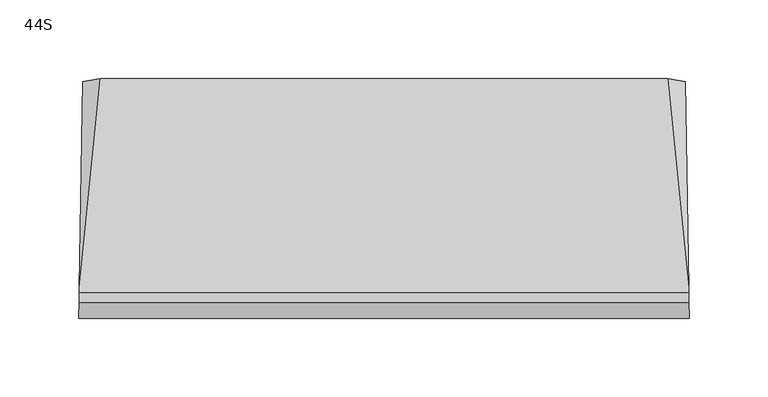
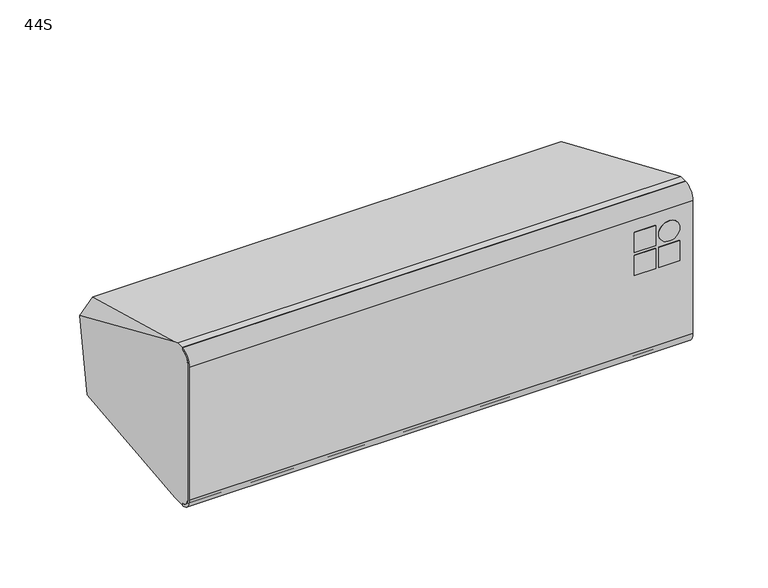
"""IFC4 building model written with IfcOpenShell, lengths in millimetres: proxy geometry, d&b xS-Series 44S Point Source : 44S."""

from ifc_helpers import new_model, si_unit, point, frame, frame_2d, origin, place, context, project, spatial, polyline, circle_curve, ellipse_curve, trimmed, segment, composite_curve, outline, extrude, source, transform, mapped, element, save
from ifc_brep_helpers import plane_surface, cylinder_surface, revolved_surface, advanced_brep


def proxy_44s_32ae6d55(model_context):
    return source(origin(), model_context, "Body", "SolidModel", [
        advanced_brep(
        [(-193.2924342, -66.0, -64.0), (-193.2924342, -66.0, -62.0435242), (-193.4294708, -73.9650952, -54.078429), (-193.4294708, -73.9650952, 54.0), (-193.2918337, -65.9650952, 62.0), (-193.2918337, -65.9650952, 64.0), (-193.1898069, -60.0349048, 64.0), (-193.132384, -56.6972655, 62.7855103), (-190.8800877, 74.2148737, 4.3760941), (-191.0574064, 63.9084293, -54.074657), (-193.132384, -56.6972655, -64.0), (193.2924342, -66.0, -62.0435242), (193.2924342, -66.0, -64.0), (193.132384, -56.6972655, -64.0), (191.0574064, 63.9084293, -54.074657), (190.8800877, 74.2148737, 4.3760941), (193.132384, -56.6972655, 62.7855103), (193.1898069, -60.0349048, 64.0), (193.2918337, -65.9650952, 64.0), (193.2918337, -65.9650952, 62.0), (193.4294708, -73.9650952, 54.0), (193.4294708, -73.9650952, -54.078429), (-181.3061997, 62.1583235, -64.0), (181.3061997, 62.1583235, -64.0), (179.9289467, 76.0, 14.5000481), (-179.9289467, 76.0, 14.5000481), (-138.5, 71.3365881, -11.9474751), (-138.5, 66.8217355, -37.5524767), (-128.5, 65.0852537, -47.4005542), (-51.5, 65.0852537, -47.4005542), (-41.5, 66.8217355, -37.5524767), (-41.5, 71.3365881, -11.9474751), (-51.5, 73.0730698, -2.0993976), (-128.5, 73.0730698, -2.0993976), (-138.5, 66.4125493, -11.0792343), (-128.5, 68.1490311, -1.2311567), (-51.5, 68.1490311, -1.2311567), (-41.5, 66.4125493, -11.0792343), (-41.5, 61.8976967, -36.6842358), (-51.5, 60.1612149, -46.5323134), (-128.5, 60.1612149, -46.5323134), (-138.5, 61.8976967, -36.6842358)],
        [
            (0, 1),
            (1, 2, ellipse_curve(frame((-193.2924342, -66.0, -54.078429), z_axis=(-0.999852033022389, 0.017202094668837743, 0.0), x_axis=(-0.01720209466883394, -0.999852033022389, 0.0)), 7.9662739, 7.9650952)),
            (2, 3),
            (3, 4, ellipse_curve(frame((-193.2918337, -65.9650952, 54.0), z_axis=(-0.999852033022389, 0.017202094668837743, 0.0), x_axis=(-0.01720209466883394, -0.999852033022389, 0.0)), 8.0011839, 8.0)),
            (4, 5),
            (5, 6),
            (6, 7),
            (7, 8),
            (8, 9),
            (9, 10),
            (10, 0),
            (11, 12),
            (12, 13),
            (13, 14),
            (14, 15),
            (15, 16),
            (16, 17),
            (17, 18),
            (18, 19),
            (19, 20, ellipse_curve(frame((193.2918337, -65.9650952, 54.0), z_axis=(0.9998520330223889, 0.01720209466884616, 0.0), x_axis=(-0.017202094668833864, 0.999852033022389, 0.0)), 8.0011839, 8.0)),
            (20, 21),
            (21, 11, ellipse_curve(frame((193.2924342, -66.0, -54.078429), z_axis=(0.9998520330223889, 0.01720209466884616, 0.0), x_axis=(-0.017202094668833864, 0.999852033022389, 0.0)), 7.9662739, 7.9650952)),
            (0, 12),
            (11, 1),
            (21, 2),
            (20, 3),
            (19, 4),
            (18, 5),
            (17, 6),
            (10, 22),
            (22, 23),
            (23, 13),
            (16, 24),
            (24, 25),
            (25, 7),
            (9, 22),
            (23, 14),
            (15, 24),
            (25, 8),
            (26, 27),
            (27, 28, circle_curve(frame((-128.5, 66.8217355, -37.5524767), z_axis=(0.0, -0.9848077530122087, 0.17364817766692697), x_axis=(0.0, 0.17364817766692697, 0.9848077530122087)), 10.0)),
            (28, 29),
            (29, 30, circle_curve(frame((-51.5, 66.8217355, -37.5524767), z_axis=(0.0, -0.9848077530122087, 0.17364817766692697), x_axis=(0.0, 0.17364817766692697, 0.9848077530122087)), 10.0)),
            (30, 31),
            (31, 32, circle_curve(frame((-51.5, 71.3365881, -11.9474751), z_axis=(0.0, -0.9848077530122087, 0.17364817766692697), x_axis=(0.0, 0.17364817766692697, 0.9848077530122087)), 10.0)),
            (32, 33),
            (33, 26, circle_curve(frame((-128.5, 71.3365881, -11.9474751), z_axis=(0.0, -0.9848077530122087, 0.17364817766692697), x_axis=(0.0, 0.17364817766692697, 0.9848077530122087)), 10.0)),
            (34, 35, circle_curve(frame((-128.5, 66.4125493, -11.0792343), z_axis=(0.0, 0.9848077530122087, -0.17364817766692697), x_axis=(0.0, 0.17364817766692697, 0.9848077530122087)), 10.0)),
            (35, 36),
            (36, 37, circle_curve(frame((-51.5, 66.4125493, -11.0792343), z_axis=(0.0, 0.9848077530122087, -0.17364817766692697), x_axis=(0.0, 0.17364817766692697, 0.9848077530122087)), 10.0)),
            (37, 38),
            (38, 39, circle_curve(frame((-51.5, 61.8976967, -36.6842358), z_axis=(0.0, 0.9848077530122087, -0.17364817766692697), x_axis=(0.0, 0.17364817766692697, 0.9848077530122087)), 10.0)),
            (39, 40),
            (40, 41, circle_curve(frame((-128.5, 61.8976967, -36.6842358), z_axis=(0.0, 0.9848077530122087, -0.17364817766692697), x_axis=(0.0, 0.17364817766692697, 0.9848077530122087)), 10.0)),
            (41, 34),
            (41, 27),
            (26, 34),
            (40, 28),
            (39, 29),
            (38, 30),
            (37, 31),
            (36, 32),
            (35, 33),
        ],
        [
            plane_surface(frame((-193.8309972, -97.3033587, 100.0), z_axis=(-0.999852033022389, 0.017202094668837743, 0.0), x_axis=(0.0, 0.0, -1.0))),
            plane_surface(frame((190.7119283, 83.9889493, 100.0), z_axis=(0.9998520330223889, 0.01720209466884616, 0.0), x_axis=(0.0, 0.0, -1.0))),
            plane_surface(frame((-207.1452552, -66.0, -64.0), z_axis=(0.0, -1.0, 0.0), x_axis=(1.0, 0.0, 0.0))),
            cylinder_surface(frame((207.1452552, -66.0, -54.078429), z_axis=(-1.0, 0.0, 0.0), x_axis=(0.0, 0.0, -1.0)), 7.9650952),
            plane_surface(frame((-207.1452552, -73.9650952, -54.078429), z_axis=(0.0, -1.0, 0.0), x_axis=(1.0, 0.0, 0.0))),
            cylinder_surface(frame((207.1452552, -65.9650952, 54.0), z_axis=(-1.0, 0.0, 0.0), x_axis=(0.0, 0.0, -1.0)), 8.0),
            plane_surface(frame((-207.1452552, -65.9650952, 62.0), z_axis=(0.0, -1.0, 0.0), x_axis=(1.0, 0.0, 0.0))),
            plane_surface(frame((-207.1452552, -65.9650952, 64.0), z_axis=(0.0, 0.0, 1.0), x_axis=(1.0, 0.0, 0.0))),
            plane_surface(frame((-207.1452552, -60.0349048, -64.0), z_axis=(0.0, 0.0, -1.0), x_axis=(1.0, 0.0, 0.0))),
            plane_surface(frame((0.0, 76.0, 14.5000481), z_axis=(0.0, 0.34194264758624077, 0.939720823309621), x_axis=(-1.0, 0.0, 0.0))),
            plane_surface(frame((-186.6967137, 76.0, -57.232233), z_axis=(-0.7053631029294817, 0.07018394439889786, -0.7053631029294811), x_axis=(0.7071067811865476, 0.0, -0.7071067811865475))),
            plane_surface(frame((186.6967137, 76.0, -57.232233), z_axis=(0.7053631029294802, 0.07018394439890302, -0.7053631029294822), x_axis=(0.7071067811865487, 0.0, 0.7071067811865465))),
            plane_surface(frame((186.6967137, 76.0, 7.7322812), z_axis=(0.6719558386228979, 0.31136907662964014, 0.6719558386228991), x_axis=(-0.7071067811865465, 0.0, 0.7071067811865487))),
            plane_surface(frame((-186.6967137, 76.0, 7.7322812), z_axis=(-0.6719558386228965, 0.3113690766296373, 0.6719558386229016), x_axis=(-0.7071067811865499, 0.0, -0.7071067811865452))),
            plane_surface(frame((-250.0, 59.1151772, -81.2585403), z_axis=(0.0, 0.9848077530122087, -0.17364817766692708), x_axis=(1.0, 0.0, 0.0))),
            plane_surface(frame((-138.5, 57.2342848, -63.1317591), z_axis=(0.0, 0.9848077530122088, -0.173648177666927), x_axis=(0.0, -0.173648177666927, -0.9848077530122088))),
            plane_surface(frame((-138.5, 66.4125493, -11.0792343), z_axis=(1.0, 0.0, 0.0), x_axis=(0.0, 0.9848077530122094, -0.1736481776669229))),
            revolved_surface(polyline([(-128.5, 63.63417846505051, -26.836158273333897), (-128.5, 68.55821727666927, -27.704399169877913)]), (-128.5, 66.8217355, -37.5524767), (0.0, -0.9848077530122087, 0.17364817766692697)),
            plane_surface(frame((-128.5, 60.1612149, -46.5323134), z_axis=(0.0, 0.1736481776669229, 0.9848077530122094), x_axis=(0.0, 0.9848077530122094, -0.1736481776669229))),
            revolved_surface(polyline([(-51.5, 63.63417846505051, -26.836158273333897), (-51.5, 68.55821727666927, -27.704399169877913)]), (-51.5, 66.8217355, -37.5524767), (0.0, -0.9848077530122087, 0.17364817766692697)),
            plane_surface(frame((-41.5, 61.8976967, -36.6842358), z_axis=(-1.0, 0.0, 0.0), x_axis=(0.0, 0.9848077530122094, -0.1736481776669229))),
            revolved_surface(polyline([(-51.5, 68.1490310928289, -1.2311566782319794), (-51.5, 73.07306987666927, -2.0993975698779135)]), (-51.5, 71.3365881, -11.9474751), (0.0, -0.9848077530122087, 0.17364817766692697)),
            plane_surface(frame((-51.5, 68.1490311, -1.2311567), z_axis=(0.0, -0.1736481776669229, -0.9848077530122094), x_axis=(0.0, 0.9848077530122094, -0.1736481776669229))),
            revolved_surface(polyline([(-128.5, 68.1490310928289, -1.2311566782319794), (-128.5, 73.07306987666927, -2.0993975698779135)]), (-128.5, 71.3365881, -11.9474751), (0.0, -0.9848077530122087, 0.17364817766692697)),
        ],
        [
            (0, [[1, 2, 3, 4, 5, 6, 7, 8, 9, 10, 11]]),
            (1, [[12, 13, 14, 15, 16, 17, 18, 19, 20, 21, 22]]),
            (2, [[23, -12, 24, -1]]),
            (3, [[-24, -22, 25, -2]]),
            (4, [[-25, -21, 26, -3]]),
            (5, [[-26, -20, 27, -4]]),
            (6, [[-27, -19, 28, -5]]),
            (7, [[-28, -18, 29, -6]]),
            (8, [[-23, -11, 30, 31, 32, -13]]),
            (9, [[-29, -17, 33, 34, 35, -7]]),
            (10, [[-30, -10, 36]]),
            (11, [[-32, 37, -14]]),
            (12, [[-33, -16, 38]]),
            (13, [[-35, 39, -8]]),
            (14, [[-31, -36, -9, -39, -34, -38, -15, -37], [40, 41, 42, 43, 44, 45, 46, 47]]),
            (15, [[48, 49, 50, 51, 52, 53, 54, 55]]),
            (16, [[-55, 56, -40, 57]]),
            (17, [[-54, 58, -41, -56]]),
            (18, [[-53, 59, -42, -58]]),
            (19, [[-52, 60, -43, -59]]),
            (20, [[-51, 61, -44, -60]]),
            (21, [[-50, 62, -45, -61]]),
            (22, [[-49, 63, -46, -62]]),
            (23, [[-48, -57, -47, -63]]),
        ],
    ),
        extrude(outline(polyline([(164.7978139, -76.0), (148.4644806, -76.0), (148.4644806, -71.0), (164.7978139, -71.0), (164.7978139, -76.0)])), frame((0.0, 0.0, 27.6666667), z_axis=(0.0, 0.0, 1.0), x_axis=(1.0, 0.0, 0.0)), (0.0, 0.0, 1.0), 16.3333333),
        extrude(outline(polyline([(164.7978139, -76.0), (148.4644806, -76.0), (148.4644806, -71.0), (164.7978139, -71.0), (164.7978139, -76.0)])), frame((0.0, 0.0, 9.0), z_axis=(0.0, 0.0, 1.0), x_axis=(1.0, 0.0, 0.0)), (0.0, 0.0, 1.0), 16.3333333),
        extrude(outline(polyline([(183.4644806, -76.0), (167.1311473, -76.0), (167.1311473, -71.0), (183.4644806, -71.0), (183.4644806, -76.0)])), frame((0.0, 0.0, 9.0), z_axis=(0.0, 0.0, 1.0), x_axis=(1.0, 0.0, 0.0)), (0.0, 0.0, 1.0), 16.3333333),
        extrude(outline(composite_curve([segment(trimmed(circle_curve(frame_2d((35.8333333, 175.2978139)), 8.1666667), [point((35.8333333, 183.4644806))], [point((35.8333333, 167.1311473))], False, "CARTESIAN"), True, "CONTINUOUS"), segment(trimmed(circle_curve(frame_2d((35.8333333, 175.2978139)), 8.1666667), [point((35.8333333, 167.1311473))], [point((35.8333333, 183.4644806))], False, "CARTESIAN"), True, "CONTINUOUS")], self_intersect=False)), frame((0.0, -76.0, 0.0), z_axis=(0.0, 1.0, 0.0), x_axis=(0.0, 0.0, 1.0)), (0.0, 0.0, 1.0), 5.0),
        advanced_brep(
        [(-193.4294708, -73.9650952, 54.0), (-193.4294708, -73.9650952, -54.078429), (-193.2924342, -66.0, -62.0435242), (-193.2924342, -66.0, -64.0), (-193.4644806, -76.0, -54.0), (-193.4644806, -76.0, 54.0), (-193.2918337, -65.9650952, 64.0349048), (-193.2918337, -65.9650952, 62.0), (193.4294708, -73.9650952, -54.078429), (193.4294708, -73.9650952, 54.0), (193.2918337, -65.9650952, 62.0), (193.2918337, -65.9650952, 64.0349048), (193.4644806, -76.0, 54.0), (193.4644806, -76.0, -54.0), (193.2924342, -66.0, -64.0), (193.2924342, -66.0, -62.0435242)],
        [
            (0, 1),
            (1, 2, ellipse_curve(frame((-193.2924342, -66.0, -54.078429), z_axis=(0.999852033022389, -0.017202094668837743, 0.0), x_axis=(0.01720209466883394, 0.999852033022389, 0.0)), 7.9662739, 7.9650952)),
            (2, 3),
            (3, 4, ellipse_curve(frame((-193.2924342, -66.0, -54.0), z_axis=(-0.999852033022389, 0.017202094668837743, 0.0), x_axis=(-0.01720209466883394, -0.999852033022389, 0.0)), 10.0014799, 10.0)),
            (4, 5),
            (5, 6, ellipse_curve(frame((-193.2918337, -65.9650952, 54.0), z_axis=(-0.999852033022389, 0.017202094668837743, 0.0), x_axis=(-0.01720209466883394, -0.999852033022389, 0.0)), 10.0363899, 10.0349048)),
            (6, 7),
            (7, 0, ellipse_curve(frame((-193.2918337, -65.9650952, 54.0), z_axis=(0.999852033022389, -0.017202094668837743, 0.0), x_axis=(0.01720209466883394, 0.999852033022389, 0.0)), 8.0011839, 8.0)),
            (8, 9),
            (9, 10, ellipse_curve(frame((193.2918337, -65.9650952, 54.0), z_axis=(-0.9998520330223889, -0.01720209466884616, 0.0), x_axis=(0.017202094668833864, -0.999852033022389, 0.0)), 8.0011839, 8.0)),
            (10, 11),
            (11, 12, ellipse_curve(frame((193.2918337, -65.9650952, 54.0), z_axis=(0.9998520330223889, 0.01720209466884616, 0.0), x_axis=(-0.017202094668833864, 0.999852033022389, 0.0)), 10.0363899, 10.0349048)),
            (12, 13),
            (13, 14, ellipse_curve(frame((193.2924342, -66.0, -54.0), z_axis=(0.9998520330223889, 0.01720209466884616, 0.0), x_axis=(-0.017202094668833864, 0.999852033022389, 0.0)), 10.0014799, 10.0)),
            (14, 15),
            (15, 8, ellipse_curve(frame((193.2924342, -66.0, -54.078429), z_axis=(-0.9998520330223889, -0.01720209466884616, 0.0), x_axis=(0.017202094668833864, -0.999852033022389, 0.0)), 7.9662739, 7.9650952)),
            (0, 9),
            (8, 1),
            (15, 2),
            (14, 3),
            (13, 4),
            (12, 5),
            (11, 6),
            (10, 7),
        ],
        [
            plane_surface(frame((-193.8309972, -97.3033587, 100.0), z_axis=(-0.999852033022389, 0.017202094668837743, 0.0), x_axis=(0.0, 0.0, -1.0))),
            plane_surface(frame((190.7119283, 83.9889493, 100.0), z_axis=(0.9998520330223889, 0.01720209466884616, 0.0), x_axis=(0.0, 0.0, -1.0))),
            plane_surface(frame((-202.5, -73.9650952, 54.0), z_axis=(0.0, 1.0, 0.0), x_axis=(1.0, 0.0, 0.0))),
            revolved_surface(polyline([(193.4294708, -66.0, -46.1133338), (-193.4294708, -66.0, -46.1133338)]), (202.5, -66.0, -54.078429), (1.0, 0.0, 0.0)),
            plane_surface(frame((-202.5, -66.0, -62.0435242), z_axis=(0.0, 1.0, 0.0), x_axis=(1.0, 0.0, 0.0))),
            cylinder_surface(frame((202.5, -66.0, -54.0), z_axis=(-1.0, 0.0, 0.0), x_axis=(0.0, 0.0, 1.0)), 10.0),
            plane_surface(frame((-202.5, -76.0, -54.0), z_axis=(0.0, -1.0, 0.0), x_axis=(1.0, 0.0, 0.0))),
            cylinder_surface(frame((202.5, -65.9650952, 54.0), z_axis=(-1.0, 0.0, 0.0), x_axis=(0.0, 0.0, 1.0)), 10.0349048),
            plane_surface(frame((-202.5, -65.9650952, 64.0349048), z_axis=(0.0, 1.0, 0.0), x_axis=(1.0, 0.0, 0.0))),
            revolved_surface(polyline([(193.42947082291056, -65.9650952, 62.0), (-193.42947082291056, -65.9650952, 62.0)]), (202.5, -65.9650952, 54.0), (1.0, 0.0, 0.0)),
        ],
        [
            (0, [[1, 2, 3, 4, 5, 6, 7, 8]]),
            (1, [[9, 10, 11, 12, 13, 14, 15, 16]]),
            (2, [[17, -9, 18, -1]]),
            (3, [[-18, -16, 19, -2]]),
            (4, [[-19, -15, 20, -3]]),
            (5, [[-20, -14, 21, -4]]),
            (6, [[-21, -13, 22, -5]]),
            (7, [[-22, -12, 23, -6]]),
            (8, [[-23, -11, 24, -7]]),
            (9, [[-17, -8, -24, -10]]),
        ],
    ),
    ])


if __name__ == "__main__":
    model = new_model("IFC4")
    model_context = context("Model", 3, world=origin())
    ifc_project = project(units=[si_unit("LENGTHUNIT", "METRE", prefix="MILLI")], contexts=[model_context])
    site = spatial("IfcSite", under=ifc_project)
    building = spatial("IfcBuilding", under=site)
    placement = place(None, origin())
    proxy_44s_shape = proxy_44s_32ae6d55(model_context)
    element("IfcBuildingElementProxy", 1, Name="d&b xS-Series 44S Point Source : 44S", ObjectType="d&b xS-Series 44S Point Source : 44S", at=placement, inside=building, context=model_context, shape_type="MappedRepresentation", body=[
        mapped(proxy_44s_shape, transform((0.0, 0.0, 0.0), x_axis=(1.0, 0.0, 0.0), y_axis=(0.0, 1.0, 0.0), z_axis=(0.0, 0.0, 1.0))),
    ])
    save(model, "model.ifc")
